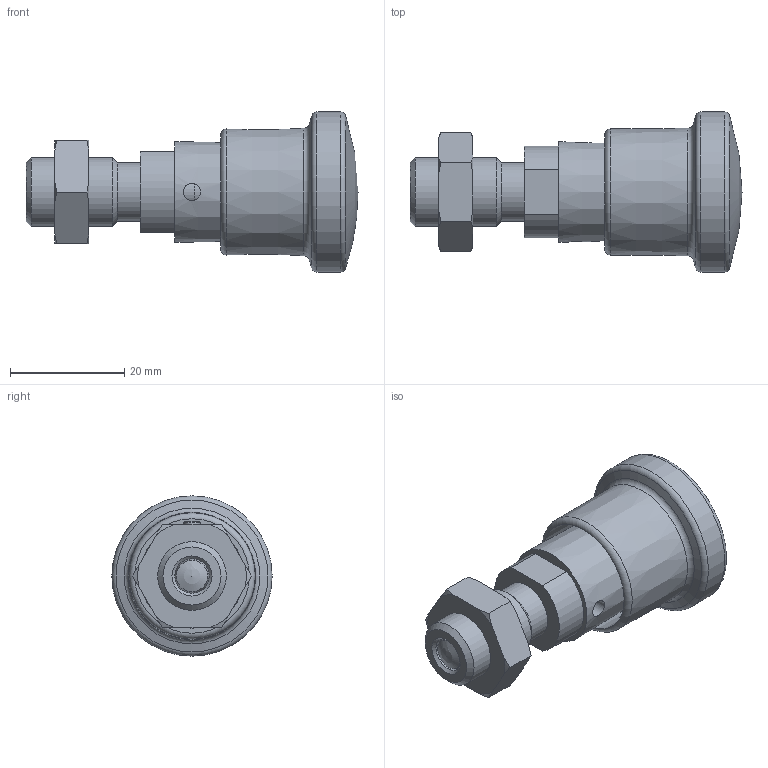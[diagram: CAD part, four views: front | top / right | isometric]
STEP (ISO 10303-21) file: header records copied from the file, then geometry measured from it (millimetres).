
FILE_DESCRIPTION( ( 'STEP AP203' ), '1' );
FILE_NAME( 'C:/Temp/Ganter_Step_05_03_2020/data/3_1/gn816/gn_816_ak/Locking plunger GN 816-6-M12x1,5-AK (activated).stp', '2020-03-12T08:55:38', ( 'License CC BY-ND 4.0' ), ( 'CADENAS' ), ' ', 'PARTsolutions', ' ' );
FILE_SCHEMA( ( 'CONFIG_CONTROL_DESIGN' ) );
Length unit declared in the file: millimetre
Products named in the file (4): Locking plunger GN 816-6-M12x1,5-AK (activated); _GN 816-6-M12x1,5-A (1)-a2; _GN 816-6-M12x1,5-A-a1; _Lock nut ISO 8675 GN 816-6-M12x1,5-AK
Assembly tree (3 placements, depth 2):
  Locking plunger GN 816-6-M12x1,5-AK (activated)
    _GN 816-6-M12x1,5-A (1)-a2
    _GN 816-6-M12x1,5-A-a1
    _Lock nut ISO 8675 GN 816-6-M12x1,5-AK
Bounding box: 58 x 28 x 28 mm (x, y, z)
Volume: 12520.4 mm3; surface area: 9682.3 mm2
Topology: 3 solids, 3 shells, 74 faces, 162 edges, 102 vertices
Faces by surface type: cone 26, plane 23, cylinder 17, torus 6, sphere 2
Full cylindrical faces by diameter (mm): 2.9 x2, 3 x2, 5.9 x1, 6 x3, 10.2 x1, 10.376 x1, 11.1 x1, 12 x1, 18.2 x1, 20.017 x1, 28 x1
Entity records: 2243 total; most frequent: CARTESIAN_POINT 664, DIRECTION 304, ORIENTED_EDGE 234, AXIS2_PLACEMENT_3D 139, EDGE_LOOP 128, EDGE_CURVE 117, VERTEX_POINT 97, FACE_OUTER_BOUND 95
